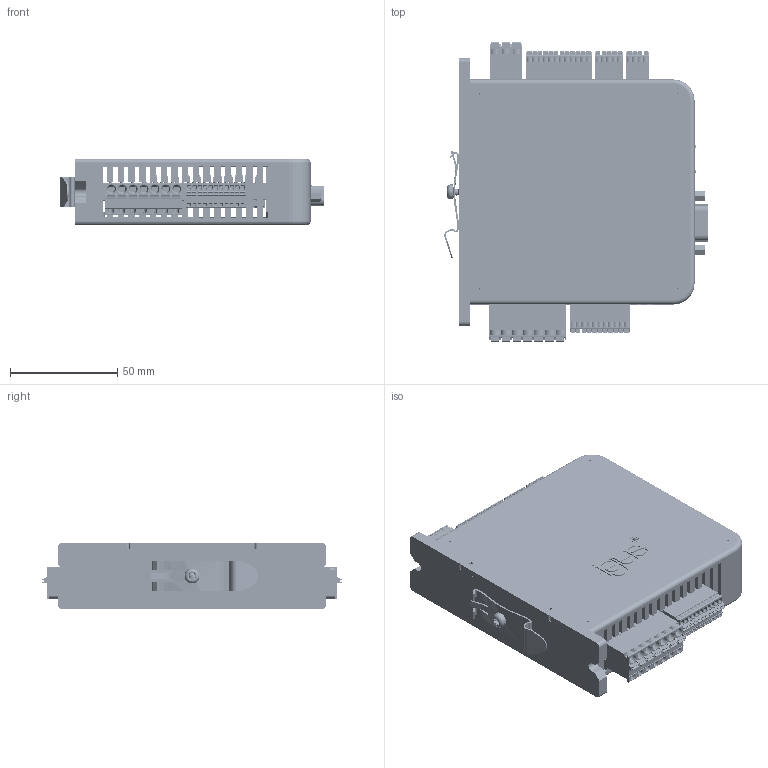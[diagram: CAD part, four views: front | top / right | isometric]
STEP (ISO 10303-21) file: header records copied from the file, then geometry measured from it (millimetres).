
FILE_DESCRIPTION(/* description */ ('Motorsteuerung'),/* implementation_level */ '2;1');
FILE_NAME(/* name */ 'I:\Gleitlager\Konstruktion\SERIE NEU (im Aufbau!!)\drylin E\Steuerung dryve\D1\D1.stp',/* time_stamp */ '2018-08-13T07:51:56+02:00',/* author */ ('fkleine'),/* organization */ (''),/* preprocessor_version */ 'ST-DEVELOPER v17',/* originating_system */ 'Autodesk Inventor 2018',/* authorisation */ '');
FILE_SCHEMA (('AUTOMOTIVE_DESIGN { 1 0 10303 214 3 1 1 }'));
Products named in the file (22): D1; DLE-Z-1; DLE-Z-2; Clip_Hutschiene; SA39-11; RJ45; 20161011 9 pol sub-D; 3polig_buchse; 3polig_stecker; 7polig_buchse; 7polig_stecker; 4polig_buchse; 4polig_stecker; 5polig_buchse; 5polig_stecker; 12polig_buchse; 12polig_stecker; 11polig_buchse; 11polig_stecker; NOR-20103; STP390400120; STP390300250
Assembly tree (24 placements, depth 2):
  D1
    DLE-Z-1
    DLE-Z-2
    Clip_Hutschiene
    SA39-11
    RJ45
    20161011 9 pol sub-D
    3polig_buchse
    3polig_stecker
    7polig_buchse
    7polig_stecker
    4polig_buchse
    4polig_stecker
    5polig_buchse
    5polig_stecker
    12polig_buchse
    12polig_stecker
    11polig_buchse
    11polig_stecker
    NOR-20103
    STP390300250  x4
    STP390400120
Bounding box: 122.85 x 139.6 x 31 mm (x, y, z)
Volume: 120490.4 mm3; surface area: 114508.1 mm2
Topology: 24 solids, 26 shells, 9144 faces, 24197 edges, 15666 vertices
Faces by surface type: plane 6459, cylinder 2028, bspline 385, cone 173, torus 56, sphere 43
Full cylindrical faces by diameter (mm): 0.434 x2, 0.457 x10, 1 x17, 1.2 x33, 1.288 x2, 1.4 x15, 1.5 x32, 1.6 x56, 2.09 x84, 2.156 x2, 2.341 x4, 2.5 x4, 2.8 x16, 2.81 x6, 2.845 x2, 2.94 x4, 3.147 x1, 3.3 x13, 3.48 x1, 4 x11, 4.147 x1, 4.2 x1, 5 x8, 5.3 x4, 5.5 x2, 6.5 x4, 7 x1, 8 x1
Entity records: 340886 total; most frequent: CARTESIAN_POINT 111251, ORIENTED_EDGE 46904, DIRECTION 44734, EDGE_CURVE 23452, LINE 17882, VECTOR 17882, VERTEX_POINT 15201, AXIS2_PLACEMENT_3D 13426
